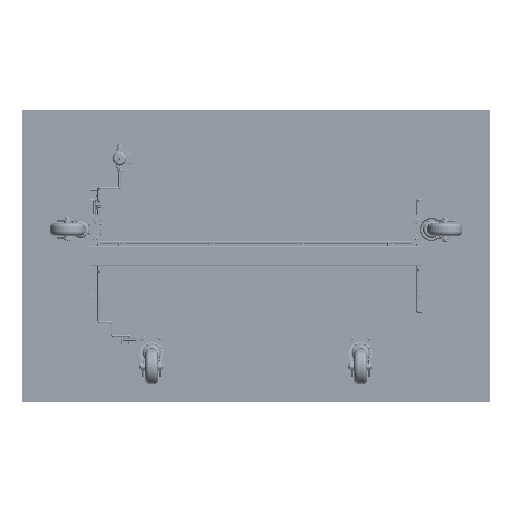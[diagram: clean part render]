
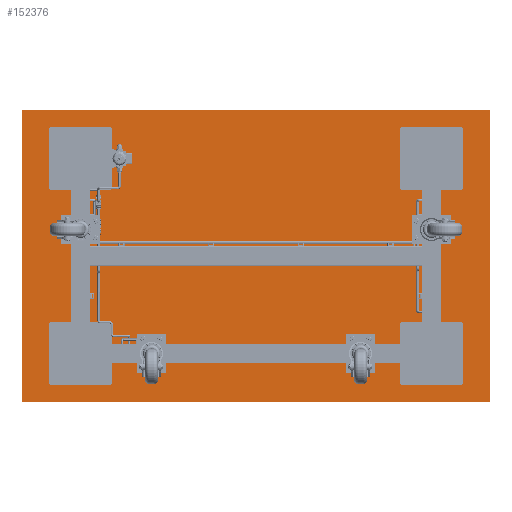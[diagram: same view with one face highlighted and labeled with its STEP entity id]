
A CAD part, front view. The second image highlights one B-rep face of the part: STEP entity #152376.
In plain terms, the highlighted planar face has unit normal (0, -1, 0).
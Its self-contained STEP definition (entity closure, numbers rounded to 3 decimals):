
#21208 = AXIS2_PLACEMENT_3D ( 'NONE', #424598, #208927, #460748 ) ;
#22619 = VECTOR ( 'NONE', #92842, 1000. ) ;
#26987 = CIRCLE ( 'NONE', #305226, 5. ) ;
#31088 = CARTESIAN_POINT ( 'NONE',  ( -595., 700., -370. ) ) ;
#32698 = CIRCLE ( 'NONE', #194047, 5. ) ;
#41266 = EDGE_LOOP ( 'NONE', ( #272997, #360355, #55092, #141283, #151337, #437823, #165615, #296200 ) ) ;
#43112 = EDGE_CURVE ( 'NONE', #168170, #175147, #32698, .T. ) ;
#43379 = DIRECTION ( 'NONE',  ( -1., 0., 0. ) ) ;
#53774 = CARTESIAN_POINT ( 'NONE',  ( 600., 700., 370. ) ) ;
#55092 = ORIENTED_EDGE ( 'NONE', *, *, #224375, .F. ) ;
#55444 = CARTESIAN_POINT ( 'NONE',  ( -595., 700., -375. ) ) ;
#64345 = VERTEX_POINT ( 'NONE', #55444 ) ;
#67366 = DIRECTION ( 'NONE',  ( -1., 0., 0. ) ) ;
#67877 = DIRECTION ( 'NONE',  ( 0., 1., 0. ) ) ;
#68282 = DIRECTION ( 'NONE',  ( 0., 0., 1. ) ) ;
#77612 = CARTESIAN_POINT ( 'NONE',  ( -600., 700., 370. ) ) ;
#85569 = LINE ( 'NONE', #283175, #350257 ) ;
#92842 = DIRECTION ( 'NONE',  ( 0., 0., -1. ) ) ;
#116841 = DIRECTION ( 'NONE',  ( 0., 1., 0. ) ) ;
#141283 = ORIENTED_EDGE ( 'NONE', *, *, #397614, .F. ) ;
#145256 = VECTOR ( 'NONE', #68282, 1000. ) ;
#151337 = ORIENTED_EDGE ( 'NONE', *, *, #176961, .F. ) ;
#152376 = ADVANCED_FACE ( 'NONE', ( #170352 ), #366173, .T. ) ;
#165615 = ORIENTED_EDGE ( 'NONE', *, *, #226328, .F. ) ;
#168170 = VERTEX_POINT ( 'NONE', #214898 ) ;
#170352 = FACE_OUTER_BOUND ( 'NONE', #41266, .T. ) ;
#175147 = VERTEX_POINT ( 'NONE', #282720 ) ;
#176961 = EDGE_CURVE ( 'NONE', #264643, #358551, #26987, .T. ) ;
#183668 = CARTESIAN_POINT ( 'NONE',  ( 595., 700., -370. ) ) ;
#187522 = CIRCLE ( 'NONE', #21208, 5. ) ;
#193431 = AXIS2_PLACEMENT_3D ( 'NONE', #183668, #259119, #43379 ) ;
#194047 = AXIS2_PLACEMENT_3D ( 'NONE', #283562, #67877, #319764 ) ;
#208927 = DIRECTION ( 'NONE',  ( 0., 1., 0. ) ) ;
#214898 = CARTESIAN_POINT ( 'NONE',  ( 600., 700., -370. ) ) ;
#217551 = CARTESIAN_POINT ( 'NONE',  ( -595., 700., 375. ) ) ;
#219607 = CIRCLE ( 'NONE', #248142, 5. ) ;
#221462 = VECTOR ( 'NONE', #438837, 1000. ) ;
#223146 = CARTESIAN_POINT ( 'NONE',  ( -595., 700., -375. ) ) ;
#224375 = EDGE_CURVE ( 'NONE', #290305, #347863, #187522, .T. ) ;
#226328 = EDGE_CURVE ( 'NONE', #64345, #330586, #219607, .T. ) ;
#236095 = CARTESIAN_POINT ( 'NONE',  ( 600., 700., 370. ) ) ;
#248142 = AXIS2_PLACEMENT_3D ( 'NONE', #31088, #283042, #67366 ) ;
#259050 = EDGE_CURVE ( 'NONE', #175147, #64345, #328527, .T. ) ;
#259119 = DIRECTION ( 'NONE',  ( 0., -1., 0. ) ) ;
#264469 = EDGE_CURVE ( 'NONE', #330586, #264643, #325509, .T. ) ;
#264643 = VERTEX_POINT ( 'NONE', #77612 ) ;
#272997 = ORIENTED_EDGE ( 'NONE', *, *, #43112, .F. ) ;
#282720 = CARTESIAN_POINT ( 'NONE',  ( 595., 700., -375. ) ) ;
#283042 = DIRECTION ( 'NONE',  ( 0., 1., 0. ) ) ;
#283175 = CARTESIAN_POINT ( 'NONE',  ( -595., 700., 375. ) ) ;
#283562 = CARTESIAN_POINT ( 'NONE',  ( 595., 700., -370. ) ) ;
#283956 = CARTESIAN_POINT ( 'NONE',  ( -600., 700., 370. ) ) ;
#290305 = VERTEX_POINT ( 'NONE', #426951 ) ;
#296200 = ORIENTED_EDGE ( 'NONE', *, *, #259050, .F. ) ;
#300989 = CARTESIAN_POINT ( 'NONE',  ( -600., 700., -370. ) ) ;
#305226 = AXIS2_PLACEMENT_3D ( 'NONE', #332550, #116841, #368674 ) ;
#319764 = DIRECTION ( 'NONE',  ( -1., 0., 0. ) ) ;
#321277 = LINE ( 'NONE', #236095, #22619 ) ;
#325509 = LINE ( 'NONE', #283956, #145256 ) ;
#328527 = LINE ( 'NONE', #223146, #221462 ) ;
#330586 = VERTEX_POINT ( 'NONE', #300989 ) ;
#332550 = CARTESIAN_POINT ( 'NONE',  ( -595., 700., 370. ) ) ;
#347863 = VERTEX_POINT ( 'NONE', #53774 ) ;
#350257 = VECTOR ( 'NONE', #426421, 1000. ) ;
#358551 = VERTEX_POINT ( 'NONE', #217551 ) ;
#360355 = ORIENTED_EDGE ( 'NONE', *, *, #367339, .F. ) ;
#366173 = PLANE ( 'NONE',  #193431 ) ;
#367339 = EDGE_CURVE ( 'NONE', #347863, #168170, #321277, .T. ) ;
#368674 = DIRECTION ( 'NONE',  ( -1., 0., 0. ) ) ;
#397614 = EDGE_CURVE ( 'NONE', #358551, #290305, #85569, .T. ) ;
#424598 = CARTESIAN_POINT ( 'NONE',  ( 595., 700., 370. ) ) ;
#426421 = DIRECTION ( 'NONE',  ( 1., 0., 0. ) ) ;
#426951 = CARTESIAN_POINT ( 'NONE',  ( 595., 700., 375. ) ) ;
#437823 = ORIENTED_EDGE ( 'NONE', *, *, #264469, .F. ) ;
#438837 = DIRECTION ( 'NONE',  ( -1., 0., 0. ) ) ;
#460748 = DIRECTION ( 'NONE',  ( 1., 0., 0. ) ) ;
